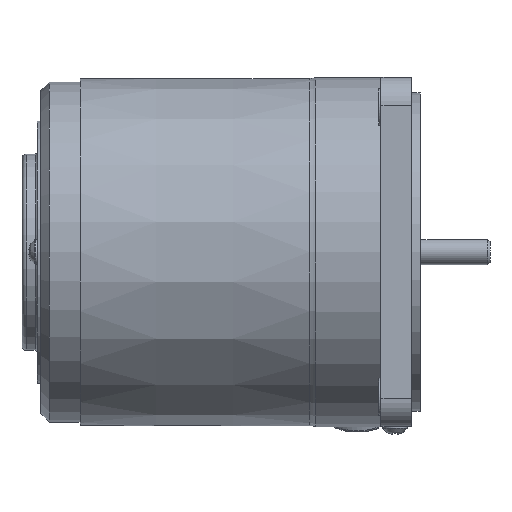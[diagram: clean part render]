
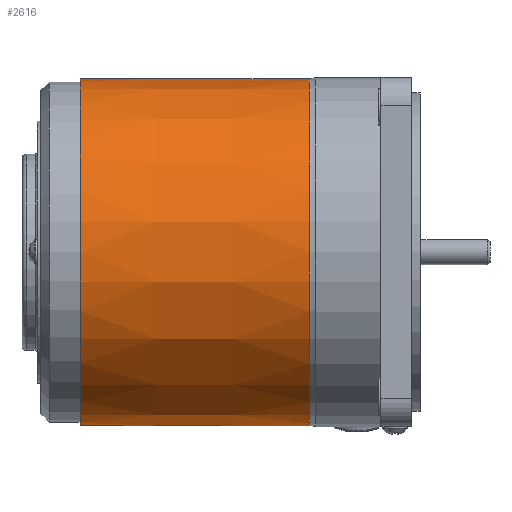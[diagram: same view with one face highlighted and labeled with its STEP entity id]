
A CAD part, top view. The second image highlights one B-rep face of the part: STEP entity #2616.
In plain terms, the highlighted conical face has half-angle 0.073 degrees and reference radius 39.784 mm.
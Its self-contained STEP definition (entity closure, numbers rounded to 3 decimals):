
#13=CONICAL_SURFACE('',#2822,39.784,0.073);
#136=FACE_BOUND('',#527,.T.);
#224=CIRCLE('',#2821,39.817);
#225=CIRCLE('',#2823,39.75);
#348=FACE_OUTER_BOUND('',#526,.T.);
#526=EDGE_LOOP('',(#1865));
#527=EDGE_LOOP('',(#1866));
#1141=VERTEX_POINT('',#4135);
#1142=VERTEX_POINT('',#4138);
#1419=EDGE_CURVE('',#1141,#1141,#224,.T.);
#1420=EDGE_CURVE('',#1142,#1142,#225,.T.);
#1865=ORIENTED_EDGE('',*,*,#1419,.F.);
#1866=ORIENTED_EDGE('',*,*,#1420,.T.);
#2616=ADVANCED_FACE('',(#348,#136),#13,.T.);
#2821=AXIS2_PLACEMENT_3D('',#4136,#3240,#3241);
#2822=AXIS2_PLACEMENT_3D('',#4137,#3242,#3243);
#2823=AXIS2_PLACEMENT_3D('',#4139,#3244,#3245);
#3240=DIRECTION('center_axis',(1.,0.,0.));
#3241=DIRECTION('ref_axis',(0.,1.,0.));
#3242=DIRECTION('center_axis',(1.,0.,0.));
#3243=DIRECTION('ref_axis',(0.,1.,0.));
#3244=DIRECTION('center_axis',(1.,0.,0.));
#3245=DIRECTION('ref_axis',(0.,1.,0.));
#4135=CARTESIAN_POINT('',(61.576,39.817,0.));
#4136=CARTESIAN_POINT('Origin',(61.576,0.,0.));
#4137=CARTESIAN_POINT('Origin',(35.288,0.,0.));
#4138=CARTESIAN_POINT('',(9.,39.75,0.));
#4139=CARTESIAN_POINT('Origin',(9.,0.,0.));
